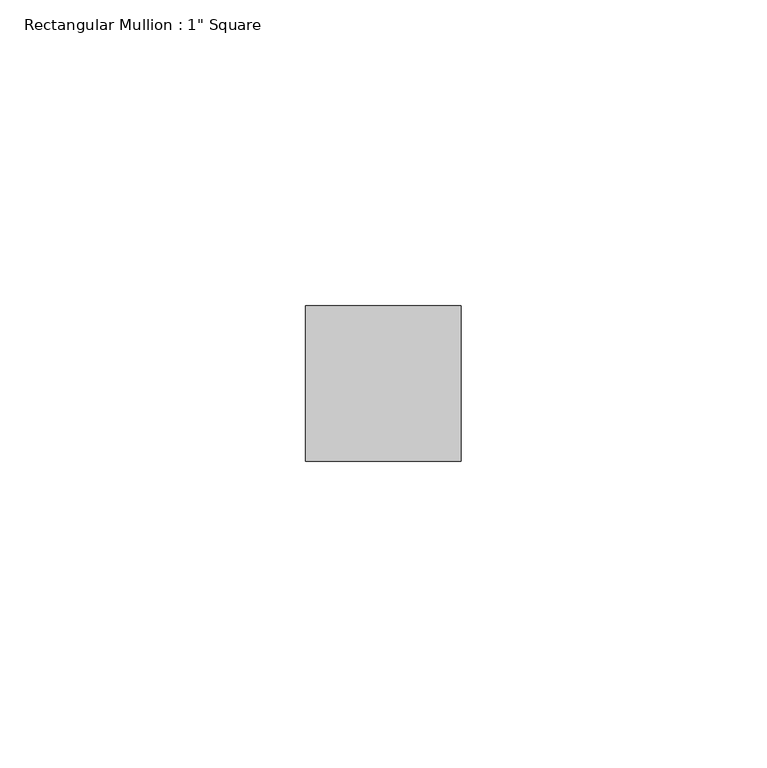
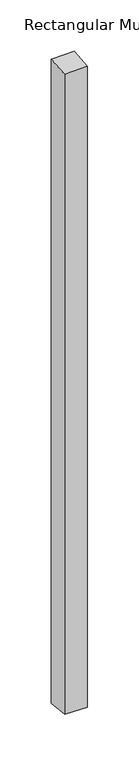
"""IFC4 building model written with IfcOpenShell, lengths in millimetres: member geometry."""

from ifc_helpers import new_model, si_unit, origin, place, context, project, spatial, faceted_brep, source, transform, mapped, element, save


def member_3c5b05b3(model_context):
    return source(origin(), model_context, "Body", "Brep", [
        faceted_brep([(-25.4, 12.7, 0.7580597), (0.0, 12.7, 1.0518213), (0.0, 12.7, -763.0518213), (-25.4, 12.7, -762.7580597), (-25.4, -12.7, -1.345583), (-25.4, -12.7, -760.654417), (0.0, -12.7, -1.0518213), (0.0, -12.7, -760.9481787)], [[[0, 1, 2, 3]], [[4, 0, 3, 5]], [[6, 4, 5, 7]], [[1, 6, 7, 2]], [[1, 0, 4, 6]], [[2, 7, 5, 3]]]),
    ])


if __name__ == "__main__":
    model = new_model("IFC4")
    model_context = context("Model", 3, world=origin())
    ifc_project = project(units=[si_unit("LENGTHUNIT", "METRE", prefix="MILLI")], contexts=[model_context])
    site = spatial("IfcSite", under=ifc_project)
    building = spatial("IfcBuilding", under=site)
    placement = place(None, origin())
    member_shape = member_3c5b05b3(model_context)
    element("IfcMember", 1, ObjectType="Rectangular Mullion : 1\" Square", at=placement, inside=building, context=model_context, shape_type="MappedRepresentation", body=[
        mapped(member_shape, transform((0.0, 0.0, 0.0), x_axis=(1.0, 0.0, 0.0), y_axis=(0.0, 1.0, 0.0), z_axis=(0.0, 0.0, 1.0))),
    ])
    save(model, "model.ifc")
